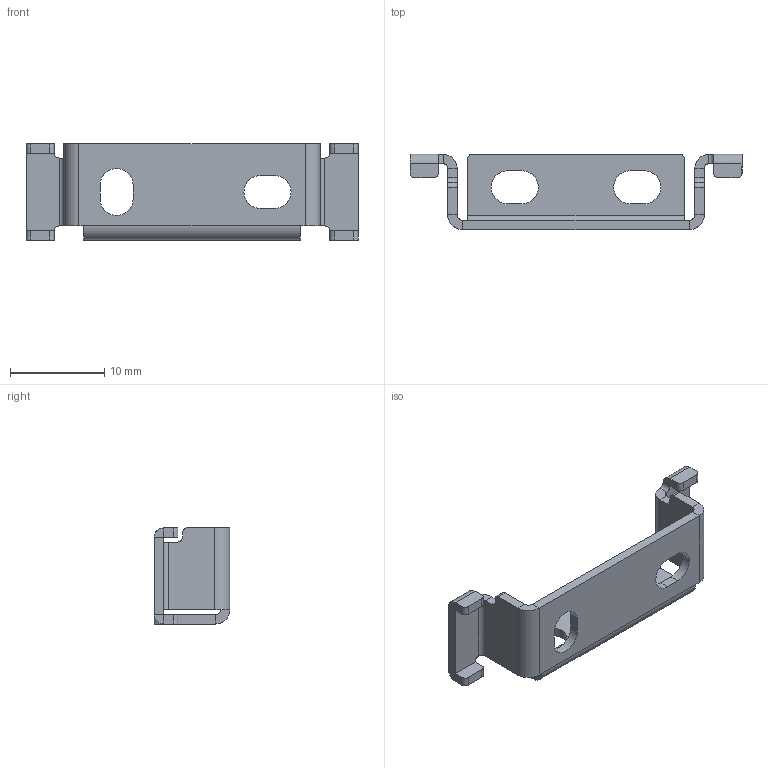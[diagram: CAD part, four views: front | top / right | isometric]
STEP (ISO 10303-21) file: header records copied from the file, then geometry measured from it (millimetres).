
FILE_DESCRIPTION (( 'STEP AP214' ), '1' );
FILE_NAME ('DRW180167 BFX BRACKET.STEP', '2024-12-03T06:41:58', ( '' ), ( '' ), 'SwSTEP 2.0', 'SolidWorks 2024', '' );
FILE_SCHEMA (( 'AUTOMOTIVE_DESIGN' ));
Length unit declared in the file: millimetre
Products named in the file (1): DRW180167 BFX BRACKET
Bounding box: 35.2 x 8 x 10.2 mm (x, y, z)
Volume: 551.9 mm3; surface area: 1306.5 mm2
Topology: 1 solids, 1 shells, 116 faces, 274 edges, 160 vertices
Faces by surface type: plane 73, cylinder 43
Entity records: 3300 total; most frequent: DIRECTION 595, CARTESIAN_POINT 551, ORIENTED_EDGE 548, EDGE_CURVE 274, AXIS2_PLACEMENT_3D 204, LINE 187, VECTOR 187, VERTEX_POINT 160
